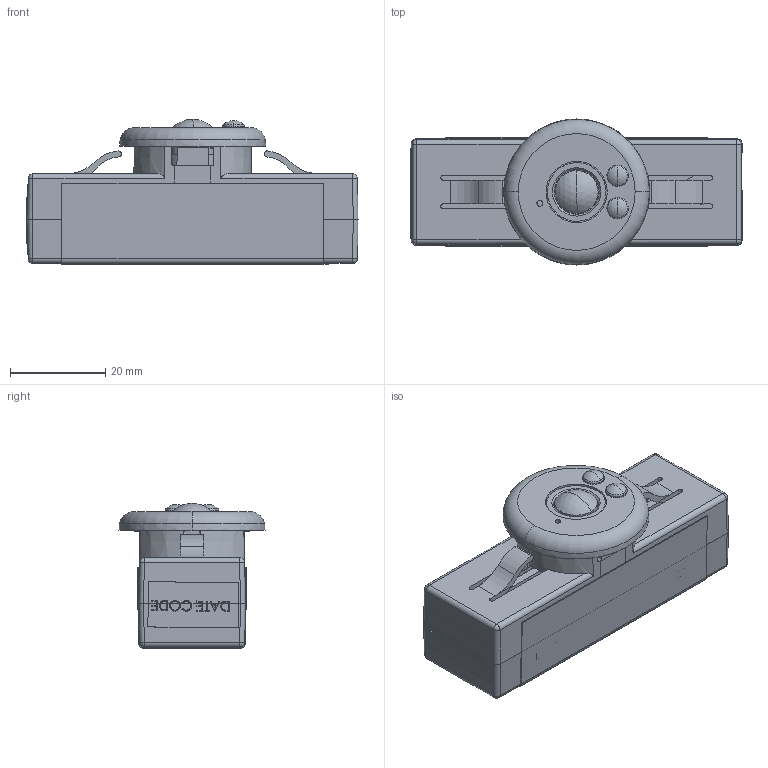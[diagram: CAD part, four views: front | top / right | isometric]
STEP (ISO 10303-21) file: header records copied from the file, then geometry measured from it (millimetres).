
FILE_DESCRIPTION (( 'STEP AP214' ), '1' );
FILE_NAME ('ORB3673-M01.STEP', '2018-04-05T16:52:45', ( 'LEVADMIN' ), ( 'LEVITON' ), 'SwSTEP 2.0', 'SolidWorks 2017', '' );
FILE_SCHEMA (( 'AUTOMOTIVE_DESIGN' ));
Length unit declared in the file: millimetre
Products named in the file (12): ORB3367-M05; OXB1229-M01 REF; OX62067-M01 ref; BAB3669-M01; BAB3672-M01; BAB3667-M01; BAB4572-M01; ORB3673-M01; ORB3350-M01; ORB4949-M01; ORB4882-M01_TEXT; BAB3670-M01
Assembly tree (11 placements, depth 2):
  ORB3673-M01
    BAB4572-M01  x2
    BAB3667-M01
    BAB3672-M01
    BAB3669-M01
    OX62067-M01 ref
    OXB1229-M01 REF
    ORB3367-M05
    BAB3670-M01
    ORB4882-M01_TEXT
    ORB3350-M01
  ORB4949-M01
Bounding box: 69.79 x 30.72 x 30.55 mm (x, y, z)
Volume: 13103.7 mm3; surface area: 28166.5 mm2
Topology: 15 solids, 146 shells, 3000 faces, 8531 edges, 5674 vertices
Faces by surface type: plane 1320, cylinder 993, bspline 303, cone 203, torus 133, sphere 48
Entity records: 124824 total; most frequent: CARTESIAN_POINT 34190, ORIENTED_EDGE 15542, DIRECTION 14821, EDGE_CURVE 8334, VERTEX_POINT 5584, AXIS2_PLACEMENT_3D 5157, VECTOR 4507, LINE 4507
